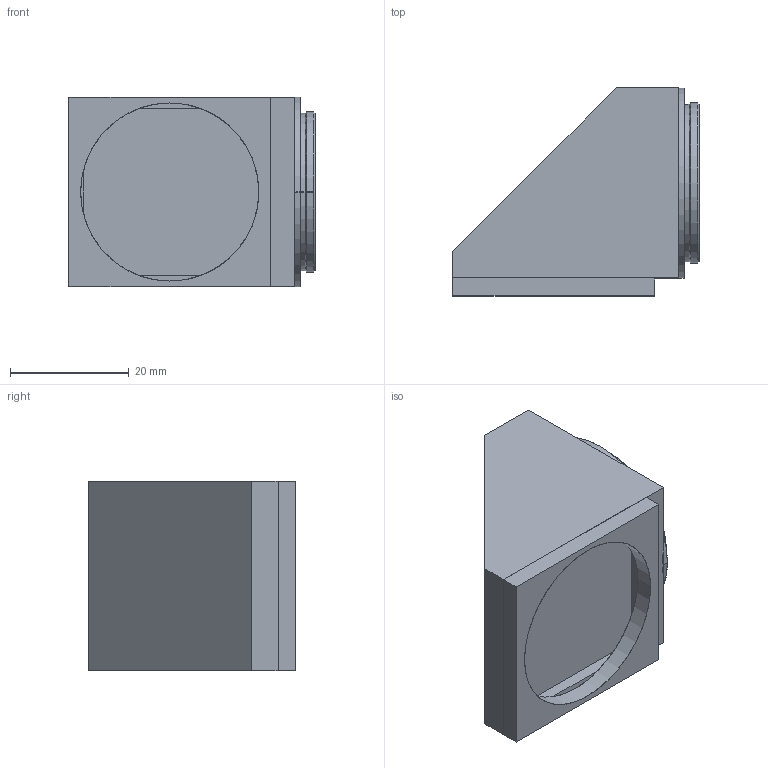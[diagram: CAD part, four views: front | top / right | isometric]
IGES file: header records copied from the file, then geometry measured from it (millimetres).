
Start section: SolidWorks IGES file using analytic representation for surfaces
Global section: file name: \\192.168.200.11\Development\07 レンズ オプション\06 VS-PZ series\02 ミラー\VS-PZ-C270F\作成中_3D\VS-PZ-C270F.IGS,15HSolidWorks; native system: 2014; preprocessor: SolidWorks 2014; author: miura_vst; date: 141006.115450; units: millimetre
Bounding box: 41.5 x 35 x 32 mm (x, y, z)
Surface area: 7827.7 mm2 (no closed solid volume)
Topology: 0 solids, 0 shells, 42 faces, 608 edges, 608 vertices
Faces by surface type: bspline 24, revolution 18
